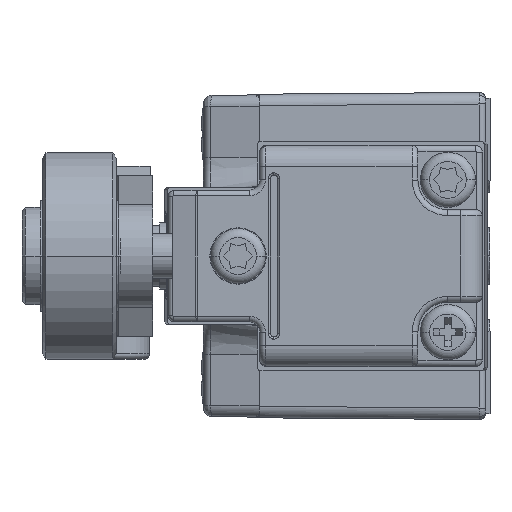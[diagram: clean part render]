
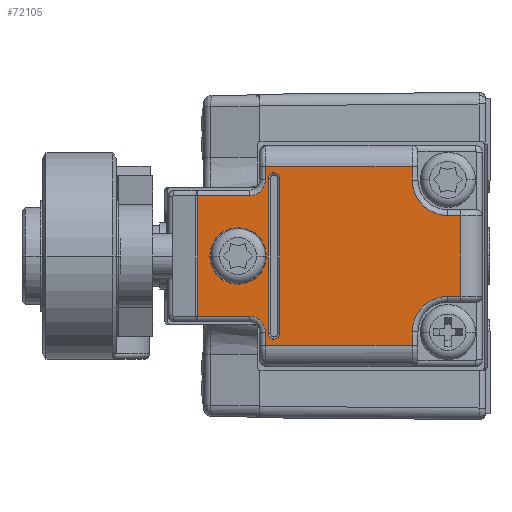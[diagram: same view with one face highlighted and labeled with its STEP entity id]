
A CAD part, left-side view. The second image highlights one B-rep face of the part: STEP entity #72105.
In plain terms, the highlighted planar face has unit normal (-1, 0, 0) as drawn and (0, 0, 1) by its records, which use the part's own axes.
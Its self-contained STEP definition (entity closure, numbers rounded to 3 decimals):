
#67588=CARTESIAN_POINT('',(-6.741,17.568,
2.9));
#67589=DIRECTION('',(0.,0.,-1.));
#67590=DIRECTION('',(-1.,0.,0.));
#67591=AXIS2_PLACEMENT_3D('',#67588,#67589,#67590);
#67596=CARTESIAN_POINT('',(-6.741,17.568,
2.9));
#67597=DIRECTION('',(0.,0.,-1.));
#67598=DIRECTION('',(0.,-1.,0.));
#67599=AXIS2_PLACEMENT_3D('',#67596,#67597,#67598);
#67604=CARTESIAN_POINT('',(6.741,17.568,2.9));
#67605=DIRECTION('',(0.,0.,-1.));
#67606=DIRECTION('',(1.,0.,0.));
#67607=AXIS2_PLACEMENT_3D('',#67604,#67605,#67606);
#67612=CARTESIAN_POINT('',(6.741,17.568,2.9));
#67613=DIRECTION('',(0.,0.,-1.));
#67614=DIRECTION('',(0.,1.,0.));
#67615=AXIS2_PLACEMENT_3D('',#67612,#67613,#67614);
#67620=CARTESIAN_POINT('',(0.,20.7,2.9));
#67621=DIRECTION('',(0.,0.,-1.));
#67622=DIRECTION('',(0.,-1.,0.));
#67623=AXIS2_PLACEMENT_3D('',#67620,#67621,#67622);
#67628=CARTESIAN_POINT('',(0.,20.7,2.9));
#67629=DIRECTION('',(0.,0.,-1.));
#67630=DIRECTION('',(0.,1.,0.));
#67631=AXIS2_PLACEMENT_3D('',#67628,#67629,#67630);
#67636=DIRECTION('',(-1.,0.,0.));
#67637=VECTOR('',#67636,1.182);
#67638=CARTESIAN_POINT('',(-6.61,5.534,
2.9));
#67639=LINE('',#67638,#67637);
#67643=DIRECTION('',(0.,1.,0.));
#67644=VECTOR('',#67643,12.784);
#67645=CARTESIAN_POINT('',(-7.792,5.534,
2.9));
#67646=LINE('',#67645,#67644);
#67650=CARTESIAN_POINT('',(-6.636,19.714,
2.9));
#67651=DIRECTION('',(0.,0.,-1.));
#67652=DIRECTION('',(1.,0.,0.));
#67653=AXIS2_PLACEMENT_3D('',#67650,#67651,#67652);
#67658=CARTESIAN_POINT('',(6.636,19.714,2.9));
#67659=DIRECTION('',(0.,0.,-1.));
#67660=DIRECTION('',(0.,-1.,0.));
#67661=AXIS2_PLACEMENT_3D('',#67658,#67659,#67660);
#67666=DIRECTION('',(-1.,0.,0.));
#67667=VECTOR('',#67666,1.182);
#67668=CARTESIAN_POINT('',(7.792,5.534,2.9));
#67669=LINE('',#67668,#67667);
#67673=CARTESIAN_POINT('',(6.61,2.45,2.9));
#67674=DIRECTION('',(0.,0.,1.));
#67675=DIRECTION('',(0.,1.,0.));
#67676=AXIS2_PLACEMENT_3D('',#67673,#67674,#67675);
#67681=DIRECTION('',(0.,-1.,0.));
#67682=VECTOR('',#67681,1.163);
#67683=CARTESIAN_POINT('',(3.526,2.45,2.9));
#67684=LINE('',#67683,#67682);
#67688=DIRECTION('',(1.,0.,0.));
#67689=VECTOR('',#67688,7.052);
#67690=CARTESIAN_POINT('',(-3.526,1.287,
2.9));
#67691=LINE('',#67690,#67689);
#67695=DIRECTION('',(0.,1.,0.));
#67696=VECTOR('',#67695,1.163);
#67697=CARTESIAN_POINT('',(-3.526,1.287,
2.9));
#67698=LINE('',#67697,#67696);
#67702=CARTESIAN_POINT('',(-6.61,2.45,
2.9));
#67703=DIRECTION('',(0.,0.,1.));
#67704=DIRECTION('',(1.,0.,0.));
#67705=AXIS2_PLACEMENT_3D('',#67702,#67703,#67704);
#67710=DIRECTION('',(-1.,0.,0.));
#67711=VECTOR('',#67710,13.483);
#67712=CARTESIAN_POINT('',(6.741,18.068,2.9));
#67713=LINE('',#67712,#67711);
#67771=DIRECTION('',(1.,0.,0.));
#67772=VECTOR('',#67771,13.483);
#67773=CARTESIAN_POINT('',(-6.741,17.068,
2.9));
#67774=LINE('',#67773,#67772);
#68245=DIRECTION('',(0.,1.,0.));
#68246=VECTOR('',#68245,12.784);
#68247=CARTESIAN_POINT('',(7.792,5.534,2.9));
#68248=LINE('',#68247,#68246);
#68344=DIRECTION('',(1.,0.,0.));
#68345=VECTOR('',#68344,1.156);
#68346=CARTESIAN_POINT('',(6.636,18.318,2.9));
#68347=LINE('',#68346,#68345);
#68382=DIRECTION('',(0.,-1.,0.));
#68383=VECTOR('',#68382,4.55);
#68384=CARTESIAN_POINT('',(5.24,24.264,2.9));
#68385=LINE('',#68384,#68383);
#68427=DIRECTION('',(1.,0.,0.));
#68428=VECTOR('',#68427,10.48);
#68429=CARTESIAN_POINT('',(-5.24,24.264,
2.9));
#68430=LINE('',#68429,#68428);
#68479=DIRECTION('',(0.,1.,0.));
#68480=VECTOR('',#68479,4.55);
#68481=CARTESIAN_POINT('',(-5.24,19.714,
2.9));
#68482=LINE('',#68481,#68480);
#68517=DIRECTION('',(1.,0.,0.));
#68518=VECTOR('',#68517,1.156);
#68519=CARTESIAN_POINT('',(-7.792,18.318,
2.9));
#68520=LINE('',#68519,#68518);
#71460=CARTESIAN_POINT('',(6.741,18.068,2.9));
#71461=CARTESIAN_POINT('',(-6.741,18.068,
2.9));
#71462=VERTEX_POINT('',#71460);
#71463=VERTEX_POINT('',#71461);
#71464=CARTESIAN_POINT('',(7.241,17.568,2.9));
#71465=VERTEX_POINT('',#71464);
#71466=CARTESIAN_POINT('',(6.741,17.068,2.9));
#71467=VERTEX_POINT('',#71466);
#71468=CARTESIAN_POINT('',(-6.741,17.068,
2.9));
#71469=VERTEX_POINT('',#71468);
#71470=CARTESIAN_POINT('',(-7.241,17.568,
2.9));
#71471=VERTEX_POINT('',#71470);
#71472=CARTESIAN_POINT('',(-5.24,19.714,
2.9));
#71473=CARTESIAN_POINT('',(-6.636,18.318,
2.9));
#71474=VERTEX_POINT('',#71472);
#71475=VERTEX_POINT('',#71473);
#71476=CARTESIAN_POINT('',(-7.792,18.318,
2.9));
#71477=VERTEX_POINT('',#71476);
#71478=CARTESIAN_POINT('',(6.636,18.318,2.9));
#71479=CARTESIAN_POINT('',(7.792,18.318,2.9));
#71480=VERTEX_POINT('',#71478);
#71481=VERTEX_POINT('',#71479);
#71482=CARTESIAN_POINT('',(5.24,19.714,2.9));
#71483=VERTEX_POINT('',#71482);
#71484=CARTESIAN_POINT('',(5.24,24.264,2.9));
#71485=VERTEX_POINT('',#71484);
#71486=CARTESIAN_POINT('',(-5.24,24.264,
2.9));
#71487=VERTEX_POINT('',#71486);
#71651=CARTESIAN_POINT('',(0.,23.155,2.9));
#71652=CARTESIAN_POINT('',(0.,18.245,2.9));
#71653=VERTEX_POINT('',#71651);
#71654=VERTEX_POINT('',#71652);
#71744=CARTESIAN_POINT('',(-7.792,5.534,
2.9));
#71746=VERTEX_POINT('',#71744);
#71750=CARTESIAN_POINT('',(-6.61,5.534,
2.9));
#71751=VERTEX_POINT('',#71750);
#71754=CARTESIAN_POINT('',(-3.526,2.45,
2.9));
#71755=VERTEX_POINT('',#71754);
#71758=CARTESIAN_POINT('',(-3.526,1.287,
2.9));
#71759=VERTEX_POINT('',#71758);
#71771=CARTESIAN_POINT('',(3.526,1.287,2.9));
#71773=VERTEX_POINT('',#71771);
#71777=CARTESIAN_POINT('',(3.526,2.45,2.9));
#71778=VERTEX_POINT('',#71777);
#71781=CARTESIAN_POINT('',(6.61,5.534,2.9));
#71782=VERTEX_POINT('',#71781);
#71785=CARTESIAN_POINT('',(7.792,5.534,2.9));
#71786=VERTEX_POINT('',#71785);
#72047=CARTESIAN_POINT('',(0.,9.229,2.9));
#72048=DIRECTION('',(0.,0.,1.));
#72049=DIRECTION('',(-1.,0.,0.));
#72050=AXIS2_PLACEMENT_3D('',#72047,#72048,#72049);
#72051=PLANE('',#72050);
#72053=ORIENTED_EDGE('',*,*,#72052,.T.);
#72055=ORIENTED_EDGE('',*,*,#72054,.T.);
#72057=ORIENTED_EDGE('',*,*,#72056,.T.);
#72059=ORIENTED_EDGE('',*,*,#72058,.F.);
#72061=ORIENTED_EDGE('',*,*,#72060,.T.);
#72063=ORIENTED_EDGE('',*,*,#72062,.T.);
#72065=ORIENTED_EDGE('',*,*,#72064,.T.);
#72067=ORIENTED_EDGE('',*,*,#72066,.F.);
#72069=ORIENTED_EDGE('',*,*,#72068,.T.);
#72071=ORIENTED_EDGE('',*,*,#72070,.F.);
#72073=ORIENTED_EDGE('',*,*,#72072,.T.);
#72075=ORIENTED_EDGE('',*,*,#72074,.T.);
#72077=ORIENTED_EDGE('',*,*,#72076,.T.);
#72079=ORIENTED_EDGE('',*,*,#72078,.F.);
#72081=ORIENTED_EDGE('',*,*,#72080,.T.);
#72083=ORIENTED_EDGE('',*,*,#72082,.T.);
#72084=EDGE_LOOP('',(#72053,#72055,#72057,#72059,#72061,#72063,#72065,#72067,
#72069,#72071,#72073,#72075,#72077,#72079,#72081,#72083));
#72085=FACE_OUTER_BOUND('',#72084,.F.);
#72086=ORIENTED_EDGE('',*,*,#72037,.F.);
#72088=ORIENTED_EDGE('',*,*,#72087,.F.);
#72089=EDGE_LOOP('',(#72086,#72088));
#72090=FACE_BOUND('',#72089,.F.);
#72092=ORIENTED_EDGE('',*,*,#72091,.T.);
#72094=ORIENTED_EDGE('',*,*,#72093,.F.);
#72096=ORIENTED_EDGE('',*,*,#72095,.F.);
#72098=ORIENTED_EDGE('',*,*,#72097,.T.);
#72100=ORIENTED_EDGE('',*,*,#72099,.F.);
#72102=ORIENTED_EDGE('',*,*,#72101,.F.);
#72103=EDGE_LOOP('',(#72092,#72094,#72096,#72098,#72100,#72102));
#72104=FACE_BOUND('',#72103,.F.);
#72105=ADVANCED_FACE('',(#72085,#72090,#72104),#72051,.T.);
#67592=CIRCLE('',#67591,0.5);
#67600=CIRCLE('',#67599,0.5);
#67608=CIRCLE('',#67607,0.5);
#67616=CIRCLE('',#67615,0.5);
#67624=CIRCLE('',#67623,2.455);
#67632=CIRCLE('',#67631,2.455);
#67654=CIRCLE('',#67653,1.396);
#67662=CIRCLE('',#67661,1.396);
#67677=CIRCLE('',#67676,3.084);
#67706=CIRCLE('',#67705,3.084);
#72037=EDGE_CURVE('',#71654,#71653,#67624,.T.);
#72052=EDGE_CURVE('',#71751,#71746,#67639,.T.);
#72054=EDGE_CURVE('',#71746,#71477,#67646,.T.);
#72056=EDGE_CURVE('',#71477,#71475,#68520,.T.);
#72058=EDGE_CURVE('',#71474,#71475,#67654,.T.);
#72060=EDGE_CURVE('',#71474,#71487,#68482,.T.);
#72062=EDGE_CURVE('',#71487,#71485,#68430,.T.);
#72064=EDGE_CURVE('',#71485,#71483,#68385,.T.);
#72066=EDGE_CURVE('',#71480,#71483,#67662,.T.);
#72068=EDGE_CURVE('',#71480,#71481,#68347,.T.);
#72070=EDGE_CURVE('',#71786,#71481,#68248,.T.);
#72072=EDGE_CURVE('',#71786,#71782,#67669,.T.);
#72074=EDGE_CURVE('',#71782,#71778,#67677,.T.);
#72076=EDGE_CURVE('',#71778,#71773,#67684,.T.);
#72078=EDGE_CURVE('',#71759,#71773,#67691,.T.);
#72080=EDGE_CURVE('',#71759,#71755,#67698,.T.);
#72082=EDGE_CURVE('',#71755,#71751,#67706,.T.);
#72087=EDGE_CURVE('',#71653,#71654,#67632,.T.);
#72091=EDGE_CURVE('',#71462,#71463,#67713,.T.);
#72093=EDGE_CURVE('',#71471,#71463,#67592,.T.);
#72095=EDGE_CURVE('',#71469,#71471,#67600,.T.);
#72097=EDGE_CURVE('',#71469,#71467,#67774,.T.);
#72099=EDGE_CURVE('',#71465,#71467,#67608,.T.);
#72101=EDGE_CURVE('',#71462,#71465,#67616,.T.);
